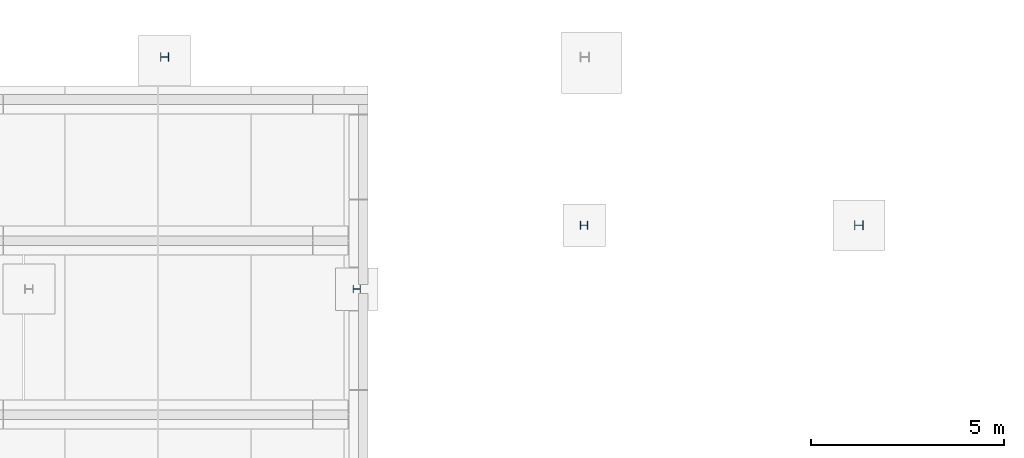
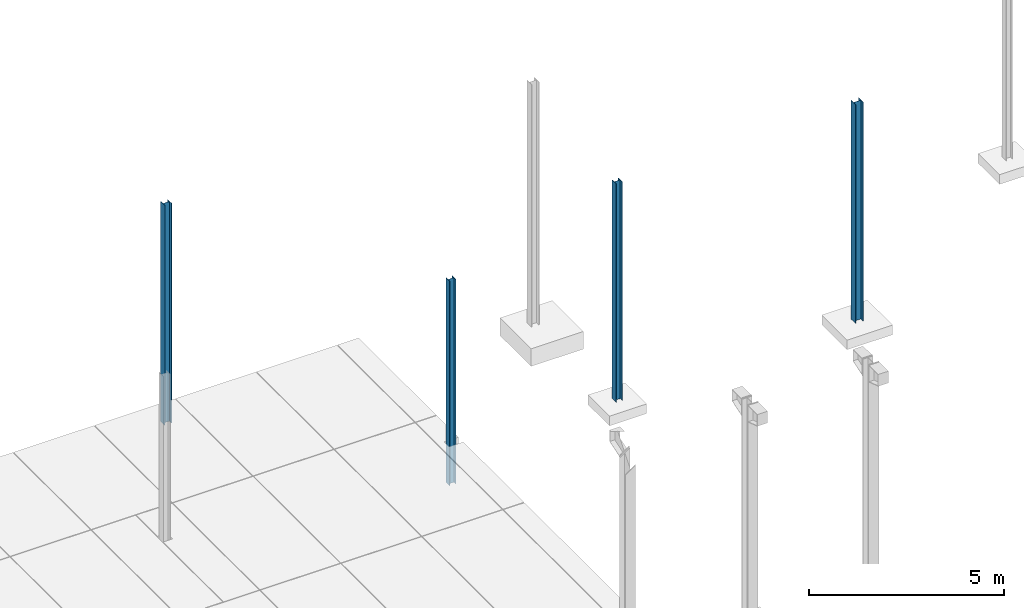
# One storey, part 42 of 59: 4 columns.
"""IFC2X3 building model written with IfcOpenShell, lengths in metres."""

import ifcopenshell
import ifcopenshell.guid

model = None  # the IFC model being written
_history = None  # IfcOwnerHistory: only IFC2X3 demands one
_inside = {}  # id of a spatial element -> (the spatial element, [elements in it])
_under = {}  # id of a project, library or spatial element -> (it, [spatial elements below it])
_declared = {}  # id of a project -> (the project, [libraries it declares])
_typed = {}  # id of a type object -> (the type object, [elements of that type])
_made_of = {}  # id of a material, layer set ... -> (it, [elements and type objects made of it])


def new_model(schema):
    """Start an empty IFC model of exactly this schema.

    Asked for "IFC4X3", IfcOpenShell would pick the latest addendum, in which some entities
    have other attributes; the version numbers below select the first issue.
    IFC2X3 requires an IfcOwnerHistory on every rooted entity: one is made here for all.
    """
    global model, _history
    if schema == "IFC4X3":
        model = ifcopenshell.file(schema_version=(4, 3, 0, 0))
    else:
        model = ifcopenshell.file(schema=schema)
    _inside.clear()
    _under.clear()
    _declared.clear()
    _typed.clear()
    _made_of.clear()
    _history = None
    if model.schema == "IFC2X3":
        org = make("IfcOrganization", Name="unknown")
        user = make(
            "IfcPersonAndOrganization",
            ThePerson=make("IfcPerson", FamilyName="unknown"),
            TheOrganization=org,
        )
        app = make(
            "IfcApplication",
            ApplicationDeveloper=org,
            Version="unknown",
            ApplicationFullName="unknown",
            ApplicationIdentifier="unknown",
        )
        _history = make(
            "IfcOwnerHistory",
            OwningUser=user,
            OwningApplication=app,
            ChangeAction="ADDED",
            CreationDate=0,
        )
    return model


def make(cls, **values):
    """One entity of the class cls with the attributes given. An attribute that is None is left unset."""
    return model.create_entity(
        cls, **{name: value for name, value in values.items() if value is not None}
    )


def entity(cls, *values):
    """Any entity or typed value of the class cls, its attributes in the order of the schema. None: left unset."""
    e = model.create_entity(cls)
    for i, value in enumerate(values):
        if value is not None:
            e[i] = value
    return e


def rooted(cls, **values):
    """An entity with a GlobalId (a new one), such as an element, a storey or a relation."""
    return make(cls, GlobalId=ifcopenshell.guid.new(), OwnerHistory=_history, **values)


def si_unit(unit_type, name, prefix=None):
    """IfcSIUnit, for example si_unit("LENGTHUNIT", "METRE", prefix="MILLI")."""
    return make("IfcSIUnit", UnitType=unit_type, Prefix=prefix, Name=name)


def converted_unit(unit_type, name, factor, base, dimensions=None, offset=None):
    """IfcConversionBasedUnit, such as the inch: factor (a typed value) times the base unit."""
    return make(
        "IfcConversionBasedUnit"
        if offset is None
        else "IfcConversionBasedUnitWithOffset",
        ConversionOffset=offset,
        Dimensions=None
        if dimensions is None
        else entity("IfcDimensionalExponents", *dimensions),
        UnitType=unit_type,
        Name=name,
        ConversionFactor=make(
            "IfcMeasureWithUnit", ValueComponent=factor, UnitComponent=base
        ),
    )


def derived_unit(unit_type, elements):
    """IfcDerivedUnit: a product of units, each with its exponent."""
    return make(
        "IfcDerivedUnit",
        Elements=[
            make("IfcDerivedUnitElement", Unit=unit, Exponent=power)
            for unit, power in elements
        ],
        UnitType=unit_type,
    )


def assignment(units):
    """IfcUnitAssignment: the units of a project."""
    return None if units is None else make("IfcUnitAssignment", Units=units)


def point(xyz):
    """IfcCartesianPoint."""
    return None if xyz is None else make("IfcCartesianPoint", Coordinates=xyz)


def direction(xyz):
    """IfcDirection."""
    return None if xyz is None else make("IfcDirection", DirectionRatios=xyz)


def frame(location, z_axis=None, x_axis=None):
    """IfcAxis2Placement3D, a coordinate frame: its origin and axes. An axis left out is left unset."""
    return make(
        "IfcAxis2Placement3D",
        Location=point(location),
        Axis=direction(z_axis),
        RefDirection=direction(x_axis),
    )


def origin():
    """The frame at (0, 0, 0) with its axes left unset."""
    return frame((0.0, 0.0, 0.0))


def origin_with_axes():
    """The frame at (0, 0, 0) with the z axis (0, 0, 1) and the x axis (1, 0, 0) written out."""
    return frame((0.0, 0.0, 0.0), z_axis=(0.0, 0.0, 1.0), x_axis=(1.0, 0.0, 0.0))


def place(relative_to, where):
    """IfcLocalPlacement: puts the frame where relative to a parent placement (None: the world)."""
    return make(
        "IfcLocalPlacement", PlacementRelTo=relative_to, RelativePlacement=where
    )


def context(
    kind, dimensions, precision=None, world=None, true_north=None, identifier=None
):
    """IfcGeometricRepresentationContext, for example the 3D "Model" context."""
    return make(
        "IfcGeometricRepresentationContext",
        ContextIdentifier=identifier,
        ContextType=kind,
        CoordinateSpaceDimension=dimensions,
        Precision=precision,
        WorldCoordinateSystem=world,
        TrueNorth=true_north,
    )


def subcontext(parent, identifier, kind, view, scale=None):
    """IfcGeometricRepresentationSubContext, for example "Body" below "Model"."""
    return make(
        "IfcGeometricRepresentationSubContext",
        ContextIdentifier=identifier,
        ContextType=kind,
        ParentContext=parent,
        TargetScale=scale,
        TargetView=view,
    )


def project(units=None, contexts=None):
    """IfcProject with its units and contexts."""
    return rooted(
        "IfcProject",
        Name="project",
        RepresentationContexts=contexts,
        UnitsInContext=assignment(units),
    )


def spatial(cls, under=None, at=None, **own):
    """A site, building, storey or space (cls), placed at a placement, below another one or the project."""
    s = rooted(cls, ObjectPlacement=at, **own)
    if under is not None:
        _under.setdefault(under.id(), (under, []))[1].append(s)
    return s


def polyline(points):
    """IfcPolyline through the points."""
    return make("IfcPolyline", Points=[point(p) for p in points])


def outline(outer, holes=None, kind="AREA"):
    """IfcArbitraryClosedProfileDef: a profile drawn as a closed curve; with holes, ...WithVoids."""
    if holes is None:
        return make("IfcArbitraryClosedProfileDef", ProfileType=kind, OuterCurve=outer)
    return make(
        "IfcArbitraryProfileDefWithVoids",
        ProfileType=kind,
        OuterCurve=outer,
        InnerCurves=holes,
    )


def extrude(swept, where, along, depth):
    """IfcExtrudedAreaSolid: the profile swept, set in the frame where, extruded along a direction by depth."""
    return make(
        "IfcExtrudedAreaSolid",
        SweptArea=swept,
        Position=where,
        ExtrudedDirection=direction(along),
        Depth=depth,
    )


def shape(context_of_items, identifier, shape_type, items):
    """IfcShapeRepresentation: the items that make up one representation, for example the "Body"."""
    return make(
        "IfcShapeRepresentation",
        ContextOfItems=context_of_items,
        RepresentationIdentifier=identifier,
        RepresentationType=shape_type,
        Items=items,
    )


def material(Name=None, Category=None):
    """IfcMaterial."""
    return make("IfcMaterial", Name=Name, Category=Category)


def made_of(thing, what):
    """Note that an element or type object is made of a material, layer set ...; save() writes the relation."""
    if what is not None:
        _made_of.setdefault(what.id(), (what, []))[1].append(thing)
    return thing


def element(
    cls,
    number,
    at=None,
    inside=None,
    cuts=None,
    type_object=None,
    material=None,
    context=None,
    identifier="Body",
    shape_type=None,
    held_by="IfcProductDefinitionShape",
    body=None,
    shapes=None,
    **own,
):
    """One element of the class cls, such as IfcWall. Its Tag is "e" and its number.

    at: its placement. inside: the storey or other place that contains it. cuts: it is an
    opening in that element (IfcRelVoidsElement). A single representation is given by context,
    identifier, shape_type and body (its items); several are given by shapes. held_by: the class
    of the entity that holds the representations. save() writes the other relations.
    """
    e = rooted(cls, Tag="e%d" % number, ObjectPlacement=at, **own)
    if body is not None:
        shapes = [shape(context, identifier, shape_type, body)]
    if shapes is not None:
        e.Representation = make(held_by, Representations=shapes)
    if inside is not None:
        _inside.setdefault(inside.id(), (inside, []))[1].append(e)
    if cuts is not None:
        rooted(
            "IfcRelVoidsElement", RelatingBuildingElement=cuts, RelatedOpeningElement=e
        )
    if type_object is not None:
        _typed.setdefault(type_object.id(), (type_object, []))[1].append(e)
    return made_of(e, material)


def aggregate(whole, parts):
    """IfcRelAggregates: a whole, such as a stair, and the parts it consists of."""
    return rooted("IfcRelAggregates", RelatingObject=whole, RelatedObjects=parts)


def save(model, path):
    """Write the relations noted so far, then the file.

    IfcRelAggregates (storeys below a building ...), IfcRelContainedInSpatialStructure (elements
    in a storey), IfcRelDefinesByType, IfcRelAssociatesMaterial and IfcRelDeclares: one each for
    every whole, place, type object, material and project.
    """
    for whole, parts in _under.values():
        aggregate(whole, parts)
    for where, things in _inside.values():
        rooted(
            "IfcRelContainedInSpatialStructure",
            RelatedElements=things,
            RelatingStructure=where,
        )
    for kind, things in _typed.values():
        rooted("IfcRelDefinesByType", RelatedObjects=things, RelatingType=kind)
    for what, things in _made_of.values():
        rooted("IfcRelAssociatesMaterial", RelatedObjects=things, RelatingMaterial=what)
    for by, libraries in _declared.values():
        rooted("IfcRelDeclares", RelatingContext=by, RelatedDefinitions=libraries)
    model.write(path)


model = new_model("IFC2X3")

# Units and contexts
model_context = context("Model", 3, precision=1e-05, world=origin())
body_context = subcontext(model_context, "Body", "Model", "MODEL_VIEW")
ifc_project = project(units=[si_unit("LENGTHUNIT", "METRE"), si_unit("AREAUNIT", "SQUARE_METRE"), si_unit("VOLUMEUNIT", "CUBIC_METRE"), si_unit("MASSUNIT", "GRAM", prefix="KILO"), converted_unit("PLANEANGLEUNIT", "DEGREE", entity("IfcPlaneAngleMeasure", 0.0174532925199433), si_unit("PLANEANGLEUNIT", "RADIAN"), dimensions=[0, 0, 0, 0, 0, 0, 0]), derived_unit("THERMALTRANSMITTANCEUNIT", [(si_unit("POWERUNIT", "WATT"), 1), (si_unit("THERMODYNAMICTEMPERATUREUNIT", "KELVIN"), -1), (si_unit("LENGTHUNIT", "METRE"), -2)]), derived_unit("VOLUMETRICFLOWRATEUNIT", [(si_unit("LENGTHUNIT", "METRE"), 3), (converted_unit("TIMEUNIT", "hour", entity("IfcTimeMeasure", 3600.0), si_unit("TIMEUNIT", "SECOND"), dimensions=[0, 0, 1, 0, 0, 0, 0]), -1), (si_unit("LENGTHUNIT", "METRE"), -1)])], contexts=[model_context])

# Site, building, storey
site_placement = place(None, origin())
site = spatial("IfcSite", under=ifc_project, at=site_placement, Name="TWP_Speiseverteilzentrum SBW VZ II", CompositionType="ELEMENT")
building_placement = place(site_placement, origin())
building = spatial("IfcBuilding", under=site, at=building_placement, Name="Speiseverteilzentrum SBW VZ II", CompositionType="ELEMENT")
storey_placement = place(building_placement, frame((0.0, 0.0, 1.7307)))
storey = spatial("IfcBuildingStorey", under=building, at=storey_placement, Name="EG_Produktion_FFB", CompositionType="ELEMENT", Elevation=1.7307)

# Columns
ifc_material_1 = material(Name="S235")
column_1_placement = place(storey_placement, frame((74.63437918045, 79.447433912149, -1.51)))
element("IfcColumn", 1, at=column_1_placement, inside=storey, material=ifc_material_1, Name="Stahlstütze", context=body_context, shape_type="SweptSolid", body=[
    extrude(outline(polyline([(0.19, 0.0), (0.19, 0.2), (0.18, 0.2), (0.18, 0.10325), (0.01, 0.10325), (0.01, 0.2), (0.0, 0.2), (0.0, 0.0), (0.01, 0.0), (0.01, 0.09675), (0.18, 0.09675), (0.18, 0.0), (0.19, 0.0)])), origin_with_axes(), (0.0, 0.0, 1.0), 6.41),
])
ifc_material_2 = material(Name="S235")
column_2_placement = place(storey_placement, frame((80.5146643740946, 81.0994153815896, -1.95)))
element("IfcColumn", 2, at=column_2_placement, inside=storey, material=ifc_material_2, Name="Stahlstütze", context=body_context, shape_type="SweptSolid", body=[
    extrude(outline(polyline([(0.19, 0.0), (0.19, 0.2), (0.18, 0.2), (0.18, 0.10325), (0.01, 0.10325), (0.01, 0.2), (0.0, 0.2), (0.0, 0.0), (0.01, 0.0), (0.01, 0.09675), (0.18, 0.09675), (0.18, 0.0), (0.19, 0.0)])), origin_with_axes(), (0.0, 0.0, 1.0), 6.85),
])
ifc_material_3 = material(Name="S235")
column_3_placement = place(storey_placement, frame((87.6012901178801, 81.0794153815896, -1.95)))
element("IfcColumn", 3, at=column_3_placement, inside=storey, material=ifc_material_3, Name="Stahlstütze", context=body_context, shape_type="SweptSolid", body=[
    extrude(outline(polyline([(0.23, 0.0), (0.23, 0.24), (0.218, 0.24), (0.218, 0.12375), (0.012, 0.12375), (0.012, 0.24), (0.0, 0.24), (0.0, 0.0), (0.012, 0.0), (0.012, 0.11625), (0.218, 0.11625), (0.218, 0.0), (0.23, 0.0)])), origin_with_axes(), (0.0, 0.0, 1.0), 6.85),
])
ifc_material_4 = material(Name="S235")
column_4_placement = place(storey_placement, frame((69.6557946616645, 85.4400000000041, -1.5)))
element("IfcColumn", 4, at=column_4_placement, inside=storey, material=ifc_material_4, Name="Stahlstütze", context=body_context, shape_type="SweptSolid", body=[
    extrude(outline(polyline([(0.21, 0.0), (0.21, 0.22), (0.199, 0.22), (0.199, 0.1135), (0.011, 0.1135), (0.011, 0.22), (0.0, 0.22), (0.0, 0.0), (0.011, 0.0), (0.011, 0.1065), (0.199, 0.1065), (0.199, 0.0), (0.21, 0.0)])), origin_with_axes(), (0.0, 0.0, 1.0), 6.8793),
])

save(model, "model.ifc")
